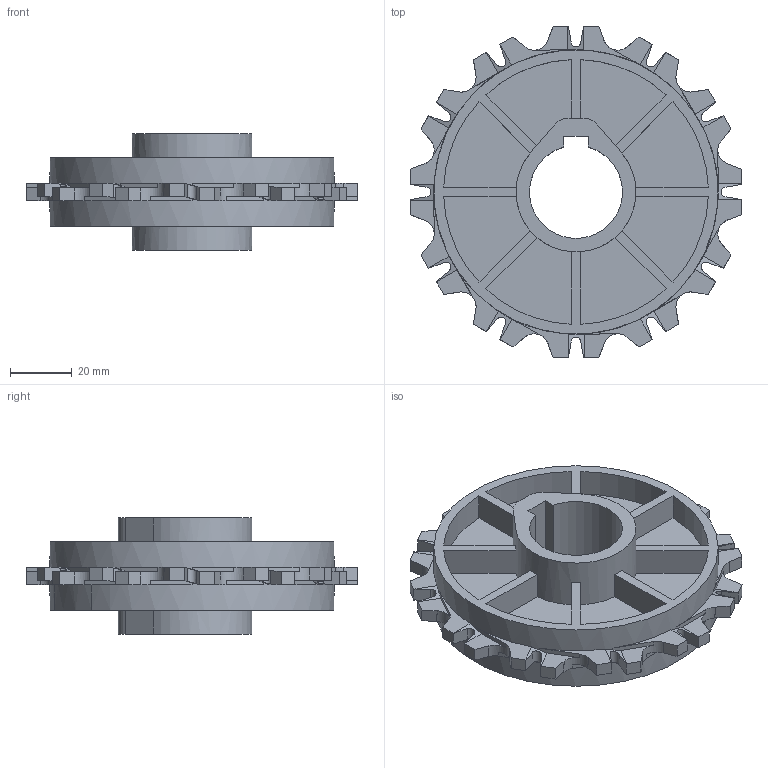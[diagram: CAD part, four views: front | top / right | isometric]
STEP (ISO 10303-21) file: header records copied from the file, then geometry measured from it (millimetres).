
FILE_DESCRIPTION((''),'2;1');
FILE_NAME('S900_SPROCKET_41X25_PILOT','2008-12-12T',('jmumphre'),(''),'PRO/ENGINEER BY PARAMETRIC TECHNOLOGY CORPORATION, 2008150','PRO/ENGINEER BY PARAMETRIC TECHNOLOGY CORPORATION, 2008150','');
FILE_SCHEMA(('CONFIG_CONTROL_DESIGN'));
Length unit declared in the file: inch
Products named in the file (1): S900_SPROCKET_41X25_PILOT
Bounding box: 106.99 x 106.99 x 37.59 mm (x, y, z)
Volume: 76725 mm3; surface area: 40639.4 mm2
Topology: 1 solids, 1 shells, 746 faces, 2211 edges, 1506 vertices
Faces by surface type: plane 606, cylinder 140
Entity records: 25443 total; most frequent: CARTESIAN_POINT 5231, ORIENTED_EDGE 4422, DIRECTION 3911, EDGE_CURVE 2211, VECTOR 1763, LINE 1763, VERTEX_POINT 1506, AXIS2_PLACEMENT_3D 1074
